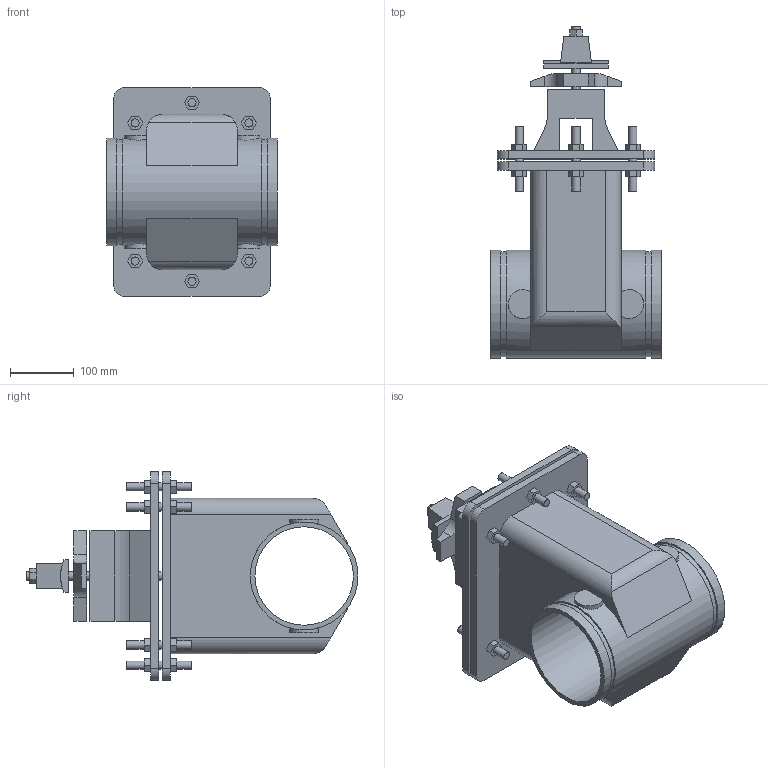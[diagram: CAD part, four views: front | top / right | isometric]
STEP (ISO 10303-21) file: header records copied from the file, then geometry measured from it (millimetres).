
FILE_DESCRIPTION(/* description */ ('VIC GATE VALVE SERIES 772H NRS','CAx-IF Rec.Pracs.---Representation and Presentation of Product Manufacturing Information (PMI)---4.0---2014-10-13'),/* implementation_level */ '2;1');
FILE_NAME(/* name */ 'C:\Users\Vjadhav\AppData\Roaming\Autodesk\ApplicationPlugins\Back Up\Victaulic_FP-FireLock_Valve Gate NRS_Series 772H (OGS)\Victaulic_FP-FireLock_Valve Gate NRS_Series 772H (OGS)_6 (150).stp',/* time_stamp */ '2020-07-20T15:49:35+05:00',/* author */ ('kkamble'),/* organization */ ('Victaulic'),/* preprocessor_version */ 'ST-DEVELOPER v17.2',/* originating_system */ 'Autodesk Inventor 2019',/* authorisation */ '');
FILE_SCHEMA (('AP242_MANAGED_MODEL_BASED_3D_ENGINEERING_MIM_LF { 1 0 10303 442 1 1 4 }'));
Length unit declared in the file: inch
Products named in the file (1): 772H-06.0
Bounding box: 267 x 519.3 x 326.9 mm (x, y, z)
Volume: 10443940.8 mm3; surface area: 840698 mm2
Topology: 1 solids, 1 shells, 221 faces, 551 edges, 371 vertices
Faces by surface type: plane 168, cylinder 53
Full cylindrical faces by diameter (mm): 12.7 x22, 153.987 x1, 163.957 x2, 168.402 x3
Entity records: 7173 total; most frequent: CARTESIAN_POINT 1361, DIRECTION 1142, ORIENTED_EDGE 1102, EDGE_CURVE 551, LINE 422, VECTOR 422, VERTEX_POINT 371, AXIS2_PLACEMENT_3D 360
